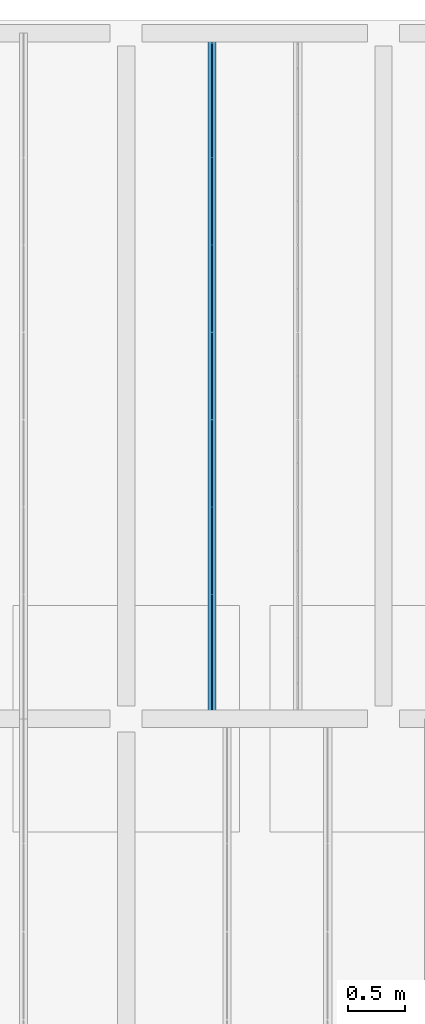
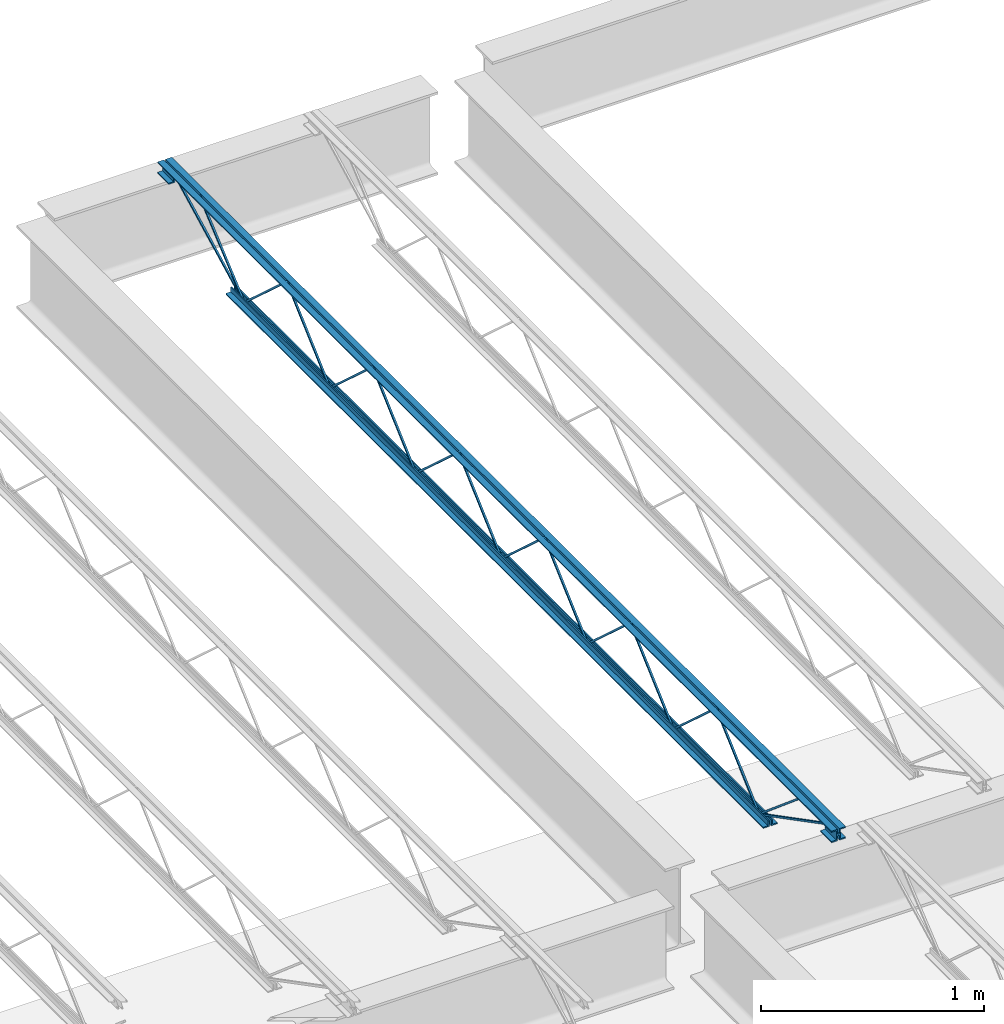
# One storey, part 46 of 75: 1 beam.
"""IFC2X3 building model written with IfcOpenShell, lengths in metres."""

from ifc_helpers import new_model, entity, si_unit, converted_unit, frame, origin, place, context, project, spatial, face_set, surface_model, element, save


model = new_model("IFC2X3")

# Units and contexts
model_context = context("Model", 3, precision=1e-09, world=origin())
plan_context = context("Plan", 3, precision=1e-09, world=origin())
ifc_project = project(units=[si_unit("LENGTHUNIT", "METRE"), si_unit("AREAUNIT", "SQUARE_METRE"), si_unit("VOLUMEUNIT", "CUBIC_METRE"), converted_unit("PLANEANGLEUNIT", "DEGREE", entity("IfcRatioMeasure", 0.01745329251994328), si_unit("PLANEANGLEUNIT", "RADIAN"), dimensions=[0, 0, 0, 0, 0, 0, 0]), si_unit("TIMEUNIT", "SECOND")], contexts=[model_context, plan_context])

# Site, building, storey
site_placement = place(None, origin())
site = spatial("IfcSite", under=ifc_project, at=site_placement, Name="Default", CompositionType="ELEMENT")
building_placement = place(site_placement, origin())
building = spatial("IfcBuilding", under=site, at=building_placement, CompositionType="ELEMENT")
storey_placement = place(building_placement, origin())
storey = spatial("IfcBuildingStorey", under=building, at=storey_placement, Name="First Floor", CompositionType="ELEMENT", Elevation=-3.531500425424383e-13)

# Beam
beam_placement = place(storey_placement, frame((-39.94008333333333, 50.09000000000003, 4.112000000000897)))
element("IfcBeam", 1, at=beam_placement, inside=storey, Name="M_K-Series Bar Joist-Rod Web:14K1:14K1", ObjectType="M_K-Series Bar Joist-Rod Web:14K1", context=model_context, shape_type="SurfaceModel", body=[
    surface_model("IfcFaceBasedSurfaceModel", [(0.0415000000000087, 3.795999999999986, 0.01110000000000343), (0.03200000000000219, 3.795999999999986, 0.01110000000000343), (0.03200000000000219, 3.795999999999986, 0.001600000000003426), (0.0415000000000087, 3.795999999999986, 0.001600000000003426), (0.03200000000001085, 3.797344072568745, 0.01110000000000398), (0.0415000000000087, 3.797344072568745, 0.01110000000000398), (0.03200000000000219, 3.801005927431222, 0.001600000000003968), (0.03200000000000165, 4.180155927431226, 0.3449000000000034), (0.03200000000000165, 4.182844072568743, 0.3449000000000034), (0.0320000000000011, 4.561994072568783, 0.001600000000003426), (0.03200000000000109, 4.566999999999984, 0.001600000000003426), (0.03200000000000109, 4.566999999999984, 0.01110000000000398), (0.03200000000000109, 4.56565592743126, 0.01110000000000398), (0.03200000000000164, 4.186505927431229, 0.3544000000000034), (0.03200000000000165, 4.176494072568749, 0.3544000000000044), (0.04150000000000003, 3.801005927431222, 0.001600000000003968), (0.04150000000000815, 4.180155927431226, 0.3449000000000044), (0.04150000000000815, 4.182844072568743, 0.3449000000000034), (0.04150000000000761, 4.561994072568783, 0.001600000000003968), (0.04150000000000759, 4.566999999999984, 0.001600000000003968), (0.04150000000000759, 4.566999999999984, 0.01110000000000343), (0.04150000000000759, 4.56565592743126, 0.01110000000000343), (0.04150000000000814, 4.186505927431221, 0.3544000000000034), (0.04150000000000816, 4.176494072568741, 0.3544000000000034), (0.04150000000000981, 3.024999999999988, 0.01110000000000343), (0.0320000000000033, 3.024999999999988, 0.01110000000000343), (0.0320000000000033, 3.024999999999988, 0.001600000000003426), (0.04150000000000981, 3.024999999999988, 0.001600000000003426), (0.03200000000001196, 3.026344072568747, 0.01110000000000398), (0.04150000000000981, 3.026344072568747, 0.01110000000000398), (0.03200000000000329, 3.030005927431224, 0.001600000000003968), (0.03200000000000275, 3.409155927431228, 0.3449000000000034), (0.03200000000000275, 3.411844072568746, 0.3449000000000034), (0.03200000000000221, 3.790994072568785, 0.001600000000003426), (0.03200000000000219, 3.795999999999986, 0.01110000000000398), (0.03200000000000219, 3.794655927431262, 0.01110000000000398), (0.03200000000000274, 3.415505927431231, 0.3544000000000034), (0.03200000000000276, 3.405494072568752, 0.3544000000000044), (0.04150000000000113, 3.030005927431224, 0.001600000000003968), (0.04150000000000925, 3.409155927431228, 0.3449000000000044), (0.04150000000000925, 3.411844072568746, 0.3449000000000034), (0.0415000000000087, 3.790994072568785, 0.001600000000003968), (0.0415000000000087, 3.795999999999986, 0.001600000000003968), (0.0415000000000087, 3.794655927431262, 0.01110000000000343), (0.04150000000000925, 3.415505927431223, 0.3544000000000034), (0.04150000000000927, 3.405494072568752, 0.3544000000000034), (0.0415000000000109, 2.25399999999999, 0.01110000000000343), (0.03200000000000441, 2.25399999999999, 0.01110000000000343), (0.03200000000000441, 2.25399999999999, 0.001600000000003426), (0.0415000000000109, 2.25399999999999, 0.001600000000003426), (0.03200000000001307, 2.255344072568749, 0.01110000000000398), (0.0415000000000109, 2.255344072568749, 0.01110000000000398), (0.03200000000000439, 2.259005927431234, 0.001600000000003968), (0.03200000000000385, 2.63815592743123, 0.3449000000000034), (0.03200000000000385, 2.640844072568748, 0.3449000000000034), (0.03200000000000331, 3.019994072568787, 0.001600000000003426), (0.0320000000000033, 3.024999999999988, 0.01110000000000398), (0.0320000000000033, 3.023655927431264, 0.01110000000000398), (0.03200000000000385, 2.644505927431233, 0.3544000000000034), (0.03200000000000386, 2.634494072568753, 0.3544000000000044), (0.04150000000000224, 2.259005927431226, 0.001600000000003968), (0.04150000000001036, 2.63815592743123, 0.3449000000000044), (0.04150000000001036, 2.640844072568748, 0.3449000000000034), (0.04150000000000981, 3.019994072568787, 0.001600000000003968), (0.04150000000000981, 3.024999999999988, 0.001600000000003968), (0.04150000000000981, 3.023655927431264, 0.01110000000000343), (0.04150000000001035, 2.644505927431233, 0.3544000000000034), (0.04150000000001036, 2.634494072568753, 0.3544000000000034), (0.04150000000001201, 1.482999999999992, 0.01110000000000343), (0.03200000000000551, 1.482999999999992, 0.01110000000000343), (0.03200000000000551, 1.482999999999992, 0.001600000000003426), (0.04150000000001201, 1.482999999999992, 0.001600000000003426), (0.03200000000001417, 1.484344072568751, 0.01110000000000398), (0.04150000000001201, 1.484344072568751, 0.01110000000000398), (0.0320000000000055, 1.488005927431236, 0.001600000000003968), (0.03200000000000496, 1.867155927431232, 0.3449000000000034), (0.03200000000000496, 1.869844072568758, 0.3449000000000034), (0.03200000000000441, 2.248994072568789, 0.001600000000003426), (0.03200000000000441, 2.253999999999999, 0.001600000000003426), (0.03200000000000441, 2.25399999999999, 0.01110000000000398), (0.03200000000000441, 2.252655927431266, 0.01110000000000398), (0.03200000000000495, 1.873505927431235, 0.3544000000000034), (0.03200000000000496, 1.863494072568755, 0.3544000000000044), (0.04150000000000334, 1.488005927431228, 0.001600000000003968), (0.04150000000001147, 1.867155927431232, 0.3449000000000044), (0.04150000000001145, 1.86984407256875, 0.3449000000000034), (0.04150000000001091, 2.248994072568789, 0.001600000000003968), (0.0415000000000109, 2.25399999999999, 0.001600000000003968), (0.0415000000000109, 2.253999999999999, 0.01110000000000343), (0.04150000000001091, 2.252655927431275, 0.01110000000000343), (0.04150000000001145, 1.873505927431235, 0.3544000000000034), (0.04150000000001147, 1.863494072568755, 0.3544000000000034), (0.04150000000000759, 4.566999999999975, 0.01109999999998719), (0.03200000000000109, 4.566999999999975, 0.01109999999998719), (0.03200000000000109, 4.566999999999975, 0.001599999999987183), (0.04150000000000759, 4.566999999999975, 0.001599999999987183), (0.03200000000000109, 4.568344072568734, 0.01109999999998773), (0.04149999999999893, 4.568344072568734, 0.01109999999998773), (0.03200000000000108, 4.57200592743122, 0.001599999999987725), (0.03200000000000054, 4.951155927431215, 0.3448999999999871), (0.03200000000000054, 4.953844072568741, 0.3448999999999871), (0.03199999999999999, 5.332994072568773, 0.001599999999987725), (0.03199999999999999, 5.337999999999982, 0.001599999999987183), (0.03199999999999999, 5.337999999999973, 0.01109999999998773), (0.03199999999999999, 5.33665592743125, 0.01109999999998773), (0.03200000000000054, 4.957505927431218, 0.3543999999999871), (0.03200000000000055, 4.947494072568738, 0.3543999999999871), (0.04149999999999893, 4.572005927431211, 0.001599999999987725), (0.04149999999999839, 4.951155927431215, 0.3448999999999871), (0.04149999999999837, 4.953844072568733, 0.3448999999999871), (0.04149999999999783, 5.332994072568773, 0.001599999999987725), (0.04149999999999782, 5.337999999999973, 0.001599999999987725), (0.04150000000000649, 5.337999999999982, 0.01109999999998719), (0.04149999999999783, 5.336655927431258, 0.01109999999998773), (0.04149999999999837, 4.957505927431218, 0.3543999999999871), (0.04149999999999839, 4.947494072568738, 0.3543999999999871), (0.04150000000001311, 0.7120000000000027, 0.01110000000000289), (0.03200000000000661, 0.7120000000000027, 0.01110000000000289), (0.03200000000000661, 0.7120000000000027, 0.001600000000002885), (0.04150000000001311, 0.7120000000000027, 0.001600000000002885), (0.03200000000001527, 0.7133440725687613, 0.01110000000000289), (0.04150000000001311, 0.7133440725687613, 0.01110000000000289), (0.03200000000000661, 0.7170059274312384, 0.001600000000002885), (0.03200000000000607, 1.096155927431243, 0.3449000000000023), (0.03200000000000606, 1.09884407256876, 0.3449000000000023), (0.03200000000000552, 1.4779940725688, 0.001600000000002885), (0.03200000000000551, 1.483000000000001, 0.001600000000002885), (0.03200000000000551, 1.483000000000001, 0.01110000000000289), (0.03200000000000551, 1.481655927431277, 0.01110000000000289), (0.03200000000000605, 1.102505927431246, 0.3544000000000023), (0.03200000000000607, 1.092494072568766, 0.3544000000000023), (0.04150000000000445, 0.7170059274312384, 0.001600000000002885), (0.04150000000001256, 1.096155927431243, 0.3449000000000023), (0.04150000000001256, 1.09884407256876, 0.3449000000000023), (0.04150000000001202, 1.4779940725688, 0.001600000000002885), (0.04150000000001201, 1.483000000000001, 0.001600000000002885), (0.04150000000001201, 1.483000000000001, 0.01110000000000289), (0.04150000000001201, 1.481655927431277, 0.01110000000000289), (0.04150000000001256, 1.102505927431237, 0.3544000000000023), (0.04150000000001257, 1.092494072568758, 0.3544000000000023), (0.03199999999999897, 6.049999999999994, 0.3559999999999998), (0.0, 6.049999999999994, 0.3559999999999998), (0.0, 6.049999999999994, 0.349499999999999), (0.02550000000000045, 6.049999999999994, 0.349499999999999), (0.02550000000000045, 6.049999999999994, 0.3239999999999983), (0.03199999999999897, 6.049999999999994, 0.3239999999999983), (0.04149999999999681, 6.049999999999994, 0.3559999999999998), (0.04149999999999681, 6.049999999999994, 0.3239999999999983), (0.04799999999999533, 6.049999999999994, 0.3239999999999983), (0.04799999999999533, 6.049999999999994, 0.349499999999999), (0.07349999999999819, 6.049999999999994, 0.349499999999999), (0.07349999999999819, 6.049999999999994, 0.3559999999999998), (0.03200000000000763, 0.0, 0.3559999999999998), (0.0, 0.0, 0.3559999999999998), (0.0, 0.0, 0.349499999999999), (0.02550000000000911, 0.0, 0.349499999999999), (0.02550000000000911, 0.0, 0.3239999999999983), (0.03200000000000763, 0.0, 0.3239999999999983), (0.04150000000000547, 0.0, 0.3559999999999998), (0.04150000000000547, 0.0, 0.3239999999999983), (0.048000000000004, 0.0, 0.3239999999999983), (0.048000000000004, 0.0, 0.349499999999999), (0.07350000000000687, 0.0, 0.349499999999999), (0.07350000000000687, 0.0, 0.3559999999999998), (0.04150000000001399, 0.09999999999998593, 0.2924999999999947), (0.07350000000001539, 0.09999999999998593, 0.2924999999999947), (0.07350000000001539, 0.09999999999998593, 0.2989999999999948), (0.04800000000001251, 0.09999999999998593, 0.2989999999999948), (0.04800000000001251, 0.09999999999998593, 0.3239999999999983), (0.04150000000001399, 0.09999999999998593, 0.3239999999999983), (0.0, 0.09999999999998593, 0.2924999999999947), (0.03200000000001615, 0.09999999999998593, 0.2924999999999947), (0.03200000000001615, 0.09999999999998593, 0.3239999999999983), (0.02550000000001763, 0.09999999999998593, 0.3239999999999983), (0.02550000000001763, 0.09999999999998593, 0.2989999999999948), (0.0, 0.09999999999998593, 0.2989999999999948), (0.04150000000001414, 0.0, 0.2924999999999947), (0.07350000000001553, 0.0, 0.2924999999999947), (0.07350000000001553, 0.0, 0.2989999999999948), (0.04800000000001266, 0.0, 0.2989999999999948), (0.04800000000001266, 0.0, 0.3239999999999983), (0.04150000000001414, 0.0, 0.3239999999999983), (0.0, 0.0, 0.2924999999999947), (0.03200000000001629, 0.0, 0.2924999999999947), (0.03200000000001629, 0.0, 0.3239999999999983), (0.02550000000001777, 0.0, 0.3239999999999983), (0.02550000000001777, 0.0, 0.2989999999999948), (0.0, 0.0, 0.2989999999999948), (0.03200000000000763, 6.049999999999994, 0.2924999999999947), (0.03200000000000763, 6.049999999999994, 0.3239999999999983), (0.02550000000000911, 6.049999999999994, 0.3239999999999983), (0.02550000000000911, 6.049999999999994, 0.2989999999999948), (0.0, 6.049999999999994, 0.2989999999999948), (0.0, 6.049999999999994, 0.2924999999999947), (0.04150000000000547, 6.049999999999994, 0.2924999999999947), (0.07350000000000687, 6.049999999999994, 0.2924999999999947), (0.07350000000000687, 6.049999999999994, 0.2989999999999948), (0.048000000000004, 6.049999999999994, 0.2989999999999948), (0.048000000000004, 6.049999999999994, 0.3239999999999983), (0.04150000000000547, 6.049999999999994, 0.3239999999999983), (0.03200000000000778, 5.949999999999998, 0.2924999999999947), (0.03200000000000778, 5.949999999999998, 0.3239999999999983), (0.02550000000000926, 5.949999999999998, 0.3239999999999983), (0.02550000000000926, 5.949999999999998, 0.2989999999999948), (0.0, 5.949999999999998, 0.2989999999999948), (0.0, 5.949999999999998, 0.2924999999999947), (0.04150000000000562, 5.949999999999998, 0.2924999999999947), (0.073500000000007, 5.949999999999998, 0.2924999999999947), (0.073500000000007, 5.949999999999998, 0.2989999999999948), (0.04800000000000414, 5.949999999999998, 0.2989999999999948), (0.04800000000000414, 5.949999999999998, 0.3239999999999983), (0.04150000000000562, 5.949999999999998, 0.3239999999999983), (0.03199999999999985, 5.438000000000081, 0.0), (0.03199999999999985, 5.438000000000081, 0.03199999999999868), (0.02550000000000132, 5.438000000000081, 0.03199999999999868), (0.02550000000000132, 5.438000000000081, 0.006499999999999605), (0.0, 5.438000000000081, 0.006499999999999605), (0.0, 5.438000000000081, 0.0), (0.04149999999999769, 5.438000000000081, 0.0), (0.07349999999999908, 5.438000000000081, 0.0), (0.07349999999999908, 5.438000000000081, 0.006499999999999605), (0.04799999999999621, 5.438000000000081, 0.006499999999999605), (0.04799999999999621, 5.438000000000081, 0.03199999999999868), (0.04149999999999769, 5.438000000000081, 0.03199999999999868), (0.03200000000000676, 0.6120000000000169, 0.0), (0.03200000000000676, 0.6120000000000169, 0.03199999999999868), (0.02550000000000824, 0.6120000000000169, 0.03199999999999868), (0.02550000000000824, 0.6120000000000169, 0.006499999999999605), (0.0, 0.6120000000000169, 0.006499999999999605), (0.0, 0.6120000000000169, 0.0), (0.0415000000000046, 0.6120000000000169, 0.0), (0.07350000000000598, 0.6120000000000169, 0.0), (0.07350000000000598, 0.6120000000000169, 0.006499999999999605), (0.04800000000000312, 0.6120000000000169, 0.006499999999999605), (0.04800000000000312, 0.6120000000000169, 0.03199999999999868), (0.0415000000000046, 0.6120000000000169, 0.03199999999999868), (0.04150000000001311, 0.7141882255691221, 0.01056594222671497), (0.03200000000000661, 0.7141882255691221, 0.01056594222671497), (0.03200000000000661, 0.7098117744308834, 0.002134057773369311), (0.04150000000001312, 0.7098117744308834, 0.002134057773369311), (0.04150000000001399, 0.101159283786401, 0.3287499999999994), (0.04150000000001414, 0.0, 0.3287499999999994), (0.04150000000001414, 0.0, 0.3192499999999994), (0.04150000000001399, 0.09884071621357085, 0.3192499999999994), (0.03200000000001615, 0.09884071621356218, 0.3192499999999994), (0.03200000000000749, 0.101159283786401, 0.3287499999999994), (0.03200000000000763, 0.0, 0.3287499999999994), (0.03200000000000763, 0.0, 0.3192499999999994), (0.04150000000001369, 0.3065428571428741, 0.341700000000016), (0.03200000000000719, 0.3065428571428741, 0.341700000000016), (0.03200000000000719, 0.3065428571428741, 0.332200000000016), (0.04150000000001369, 0.3065428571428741, 0.332200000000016), (0.03200000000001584, 0.3209758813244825, 0.341700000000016), (0.04150000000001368, 0.3209758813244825, 0.341700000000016), (0.03200000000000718, 0.3175098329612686, 0.332200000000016), (0.03200000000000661, 0.7089411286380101, 0.002716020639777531), (0.03200000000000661, 0.7150588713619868, 0.009983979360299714), (0.04150000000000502, 0.3175098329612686, 0.332200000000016), (0.04150000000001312, 0.7089411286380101, 0.002716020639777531), (0.04150000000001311, 0.7150588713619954, 0.009983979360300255), (0.04150000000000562, 5.952188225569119, 0.3197840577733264), (0.04150000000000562, 5.947811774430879, 0.3282159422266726), (0.03199999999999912, 5.947811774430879, 0.3282159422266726), (0.03199999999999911, 5.952188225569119, 0.3197840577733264), (0.04150000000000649, 5.340188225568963, 0.002134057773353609), (0.0415000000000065, 5.335811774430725, 0.01056594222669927), (0.03199999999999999, 5.335811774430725, 0.01056594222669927), (0.03199999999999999, 5.340188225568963, 0.002134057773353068), (0.04150000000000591, 5.741107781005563, 0.3460454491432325), (0.04150000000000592, 5.734920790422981, 0.3532545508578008), (0.03199999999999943, 5.734920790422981, 0.3532545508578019), (0.03199999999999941, 5.741107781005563, 0.3460454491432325), (0.04150000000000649, 5.341093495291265, 0.002745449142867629), (0.0415000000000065, 5.334906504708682, 0.009954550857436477), (0.03199999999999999, 5.334906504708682, 0.009954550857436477), (0.03199999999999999, 5.341093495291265, 0.002745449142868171)], [face_set([[[0, 1, 2, 3]], [[1, 4, 5, 0]], [[2, 6, 7, 8, 9, 10, 11, 12, 13, 14, 4, 1]], [[3, 2, 6, 15]], [[0, 3, 15, 16, 17, 18, 19, 20, 21, 22, 23, 5]], [[4, 5, 23, 14]], [[15, 16, 7, 6]], [[14, 13, 22, 23]], [[16, 7, 8, 17]], [[13, 12, 21, 22]], [[17, 8, 9, 18]], [[20, 11, 10, 19]], [[12, 11, 20, 21]], [[18, 9, 10, 19]]]), face_set([[[24, 25, 26, 27]], [[25, 28, 29, 24]], [[26, 30, 31, 32, 33, 2, 34, 35, 36, 37, 28, 25]], [[27, 26, 30, 38]], [[24, 27, 38, 39, 40, 41, 42, 0, 43, 44, 45, 29]], [[28, 29, 45, 37]], [[38, 39, 31, 30]], [[37, 36, 44, 45]], [[39, 31, 32, 40]], [[36, 35, 43, 44]], [[40, 32, 33, 41]], [[0, 34, 2, 42]], [[35, 34, 0, 43]], [[41, 33, 2, 42]]]), face_set([[[46, 47, 48, 49]], [[47, 50, 51, 46]], [[48, 52, 53, 54, 55, 26, 56, 57, 58, 59, 50, 47]], [[49, 48, 52, 60]], [[46, 49, 60, 61, 62, 63, 64, 24, 65, 66, 67, 51]], [[50, 51, 67, 59]], [[60, 61, 53, 52]], [[59, 58, 66, 67]], [[61, 53, 54, 62]], [[58, 57, 65, 66]], [[62, 54, 55, 63]], [[24, 56, 26, 64]], [[57, 56, 24, 65]], [[63, 55, 26, 64]]]), face_set([[[68, 69, 70, 71]], [[69, 72, 73, 68]], [[70, 74, 75, 76, 77, 78, 79, 80, 81, 82, 72, 69]], [[71, 70, 74, 83]], [[68, 71, 83, 84, 85, 86, 87, 88, 89, 90, 91, 73]], [[72, 73, 91, 82]], [[83, 84, 75, 74]], [[82, 81, 90, 91]], [[84, 75, 76, 85]], [[81, 80, 89, 90]], [[85, 76, 77, 86]], [[88, 79, 78, 87]], [[80, 79, 88, 89]], [[86, 77, 78, 87]]]), face_set([[[92, 93, 94, 95]], [[93, 96, 97, 92]], [[94, 98, 99, 100, 101, 102, 103, 104, 105, 106, 96, 93]], [[95, 94, 98, 107]], [[92, 95, 107, 108, 109, 110, 111, 112, 113, 114, 115, 97]], [[96, 97, 115, 106]], [[107, 108, 99, 98]], [[106, 105, 114, 115]], [[108, 99, 100, 109]], [[105, 104, 113, 114]], [[109, 100, 101, 110]], [[112, 103, 102, 111]], [[104, 103, 112, 113]], [[110, 101, 102, 111]]]), face_set([[[116, 117, 118, 119]], [[117, 120, 121, 116]], [[118, 122, 123, 124, 125, 126, 127, 128, 129, 130, 120, 117]], [[119, 118, 122, 131]], [[116, 119, 131, 132, 133, 134, 135, 136, 137, 138, 139, 121]], [[120, 121, 139, 130]], [[131, 132, 123, 122]], [[130, 129, 138, 139]], [[132, 123, 124, 133]], [[129, 128, 137, 138]], [[133, 124, 125, 134]], [[136, 127, 126, 135]], [[128, 127, 136, 137]], [[134, 125, 126, 135]]]), face_set([[[140, 141, 142, 143, 144, 145]], [[146, 147, 148, 149, 150, 151]], [[152, 153, 154, 155, 156, 157]], [[158, 159, 160, 161, 162, 163]], [[145, 140, 152, 157]], [[144, 145, 157, 156]], [[143, 155, 156, 144]], [[142, 143, 155, 154]], [[141, 153, 154, 142]], [[140, 152, 153, 141]], [[151, 163, 158, 146]], [[150, 151, 163, 162]], [[149, 150, 162, 161]], [[148, 149, 161, 160]], [[147, 148, 160, 159]], [[146, 158, 159, 147]]]), face_set([[[164, 165, 166, 167, 168, 169]], [[170, 171, 172, 173, 174, 175]], [[176, 177, 178, 179, 180, 181]], [[182, 183, 184, 185, 186, 187]], [[169, 181, 176, 164]], [[168, 180, 181, 169]], [[167, 168, 180, 179]], [[166, 178, 179, 167]], [[165, 166, 178, 177]], [[164, 165, 177, 176]], [[175, 187, 182, 170]], [[174, 186, 187, 175]], [[173, 185, 186, 174]], [[172, 184, 185, 173]], [[171, 172, 184, 183]], [[170, 171, 183, 182]]]), face_set([[[188, 189, 190, 191, 192, 193]], [[194, 195, 196, 197, 198, 199]], [[200, 201, 202, 203, 204, 205]], [[206, 207, 208, 209, 210, 211]], [[193, 188, 200, 205]], [[192, 204, 205, 193]], [[191, 203, 204, 192]], [[190, 202, 203, 191]], [[189, 201, 202, 190]], [[188, 189, 201, 200]], [[199, 211, 206, 194]], [[198, 210, 211, 199]], [[197, 198, 210, 209]], [[196, 208, 209, 197]], [[195, 196, 208, 207]], [[194, 195, 207, 206]]]), face_set([[[212, 213, 214, 215, 216, 217]], [[218, 219, 220, 221, 222, 223]], [[224, 225, 226, 227, 228, 229]], [[230, 231, 232, 233, 234, 235]], [[217, 212, 224, 229]], [[216, 228, 229, 217]], [[215, 227, 228, 216]], [[214, 226, 227, 215]], [[213, 225, 226, 214]], [[212, 213, 225, 224]], [[223, 235, 230, 218]], [[222, 234, 235, 223]], [[221, 222, 234, 233]], [[220, 232, 233, 221]], [[219, 220, 232, 231]], [[218, 219, 231, 230]]]), face_set([[[236, 237, 238, 239]], [[239, 236, 240, 241, 242, 243]], [[238, 239, 243, 244]], [[237, 245, 246, 247, 244, 238]], [[236, 240, 245, 237]], [[241, 246, 247, 242]], [[244, 243, 242, 247]], [[240, 241, 246, 245]]]), face_set([[[248, 249, 250, 251]], [[249, 252, 253, 248]], [[250, 254, 255, 256, 252, 249]], [[251, 250, 254, 257]], [[248, 251, 257, 258, 259, 253]], [[259, 256, 255, 258]], [[252, 256, 259, 253]], [[257, 254, 255, 258]]]), face_set([[[260, 261, 262, 263]], [[264, 265, 266, 267]], [[263, 267, 264, 260]], [[262, 266, 267, 263]], [[261, 262, 266, 265]], [[260, 261, 265, 264]]]), face_set([[[268, 269, 270, 271]], [[272, 273, 274, 275]], [[271, 275, 272, 268]], [[270, 274, 275, 271]], [[269, 270, 274, 273]], [[268, 269, 273, 272]]])]),
])

save(model, "model.ifc")
